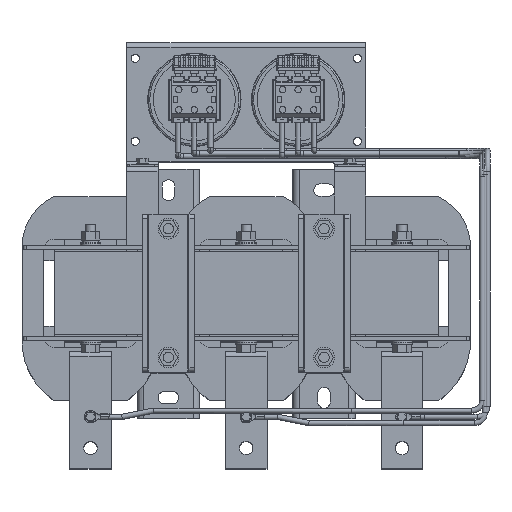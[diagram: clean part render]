
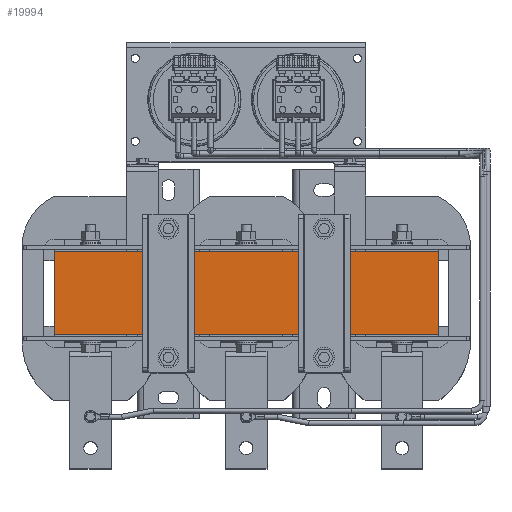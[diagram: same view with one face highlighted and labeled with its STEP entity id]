
A CAD part, top view. The second image highlights one B-rep face of the part: STEP entity #19994.
In plain terms, the highlighted planar face has unit normal (0, 0, 1).
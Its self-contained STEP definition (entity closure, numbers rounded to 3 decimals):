
#255 = CARTESIAN_POINT ( 'NONE',  ( -200., 8.543, 460. ) ) ;
#857 = ORIENTED_EDGE ( 'NONE', *, *, #47354, .T. ) ;
#4071 = CARTESIAN_POINT ( 'NONE',  ( 0., -71.457, 460. ) ) ;
#8416 = LINE ( 'NONE', #32506, #12733 ) ;
#8507 = EDGE_LOOP ( 'NONE', ( #45278, #19759, #857, #37614 ) ) ;
#10632 = CARTESIAN_POINT ( 'NONE',  ( 185., -71.457, 460. ) ) ;
#10724 = CARTESIAN_POINT ( 'NONE',  ( 185., -153.457, 460. ) ) ;
#12733 = VECTOR ( 'NONE', #56556, 1000. ) ;
#14862 = VERTEX_POINT ( 'NONE', #36615 ) ;
#14873 = CARTESIAN_POINT ( 'NONE',  ( -200., -153.457, 460. ) ) ;
#15672 = LINE ( 'NONE', #255, #54914 ) ;
#17059 = AXIS2_PLACEMENT_3D ( 'NONE', #14873, #43644, #25880 ) ;
#19759 = ORIENTED_EDGE ( 'NONE', *, *, #65488, .T. ) ;
#19994 = ADVANCED_FACE ( 'NONE', ( #25482 ), #43253, .T. ) ;
#24607 = EDGE_CURVE ( 'NONE', #14862, #31920, #64747, .T. ) ;
#25482 = FACE_OUTER_BOUND ( 'NONE', #8507, .T. ) ;
#25880 = DIRECTION ( 'NONE',  ( 1., 0., 0. ) ) ;
#27137 = VERTEX_POINT ( 'NONE', #63358 ) ;
#29421 = DIRECTION ( 'NONE',  ( -1., 0., 0. ) ) ;
#31500 = VERTEX_POINT ( 'NONE', #38862 ) ;
#31920 = VERTEX_POINT ( 'NONE', #10632 ) ;
#32506 = CARTESIAN_POINT ( 'NONE',  ( -185., -153.457, 460. ) ) ;
#36615 = CARTESIAN_POINT ( 'NONE',  ( 185., 8.543, 460. ) ) ;
#37614 = ORIENTED_EDGE ( 'NONE', *, *, #69424, .T. ) ;
#38862 = CARTESIAN_POINT ( 'NONE',  ( -185., -71.457, 460. ) ) ;
#43253 = PLANE ( 'NONE',  #17059 ) ;
#43644 = DIRECTION ( 'NONE',  ( 0., 0., 1. ) ) ;
#45278 = ORIENTED_EDGE ( 'NONE', *, *, #24607, .F. ) ;
#47354 = EDGE_CURVE ( 'NONE', #27137, #31500, #8416, .T. ) ;
#54914 = VECTOR ( 'NONE', #29421, 1000. ) ;
#56556 = DIRECTION ( 'NONE',  ( 0., -1., 0. ) ) ;
#58089 = LINE ( 'NONE', #4071, #58863 ) ;
#58863 = VECTOR ( 'NONE', #76187, 1000. ) ;
#63358 = CARTESIAN_POINT ( 'NONE',  ( -185., 8.543, 460. ) ) ;
#64747 = LINE ( 'NONE', #10724, #71416 ) ;
#65157 = DIRECTION ( 'NONE',  ( 0., -1., 0. ) ) ;
#65488 = EDGE_CURVE ( 'NONE', #14862, #27137, #15672, .T. ) ;
#69424 = EDGE_CURVE ( 'NONE', #31500, #31920, #58089, .T. ) ;
#71416 = VECTOR ( 'NONE', #65157, 1000. ) ;
#76187 = DIRECTION ( 'NONE',  ( 1., 0., 0. ) ) ;
